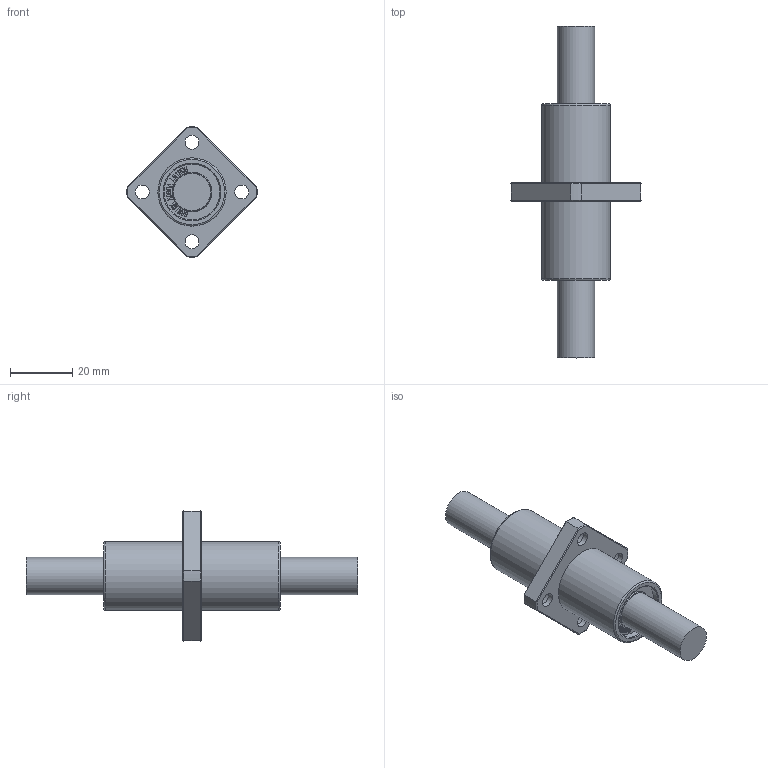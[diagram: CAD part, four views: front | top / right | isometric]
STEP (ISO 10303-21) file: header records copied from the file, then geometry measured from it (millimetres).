
FILE_DESCRIPTION(/* description */ (''),/* implementation_level */ '2;1');
FILE_NAME(/* name */ 'W:\(01) 2024년 홈페이지 CAD파일 최신화\LMEKM\IPT\LMEKM12UU.stp',/* time_stamp */ '2025-01-25T13:16:53+09:00',/* author */ ('서우현'),/* organization */ (''),/* preprocessor_version */ 'ST-DEVELOPER v17.2',/* originating_system */ 'Autodesk Inventor 2019',/* authorisation */ '');
FILE_SCHEMA (('AUTOMOTIVE_DESIGN { 1 0 10303 214 3 1 1 }'));
Length unit declared in the file: millimetre
Products named in the file (1): LM5
Bounding box: 41.98 x 107 x 41.98 mm (x, y, z)
Volume: 29502.1 mm3; surface area: 8921.5 mm2
Topology: 1 solids, 1 shells, 856 faces, 2408 edges, 1608 vertices
Faces by surface type: bspline 580, plane 244, cylinder 18, cone 12, torus 2
Full cylindrical faces by diameter (mm): 4.5 x4, 8 x4, 12 x2, 18 x2, 22 x2
Entity records: 29371 total; most frequent: CARTESIAN_POINT 10773, ORIENTED_EDGE 4816, EDGE_CURVE 2408, DIRECTION 1868, VERTEX_POINT 1608, B_SPLINE_CURVE_WITH_KNOTS 1160, LINE 1150, VECTOR 1150
